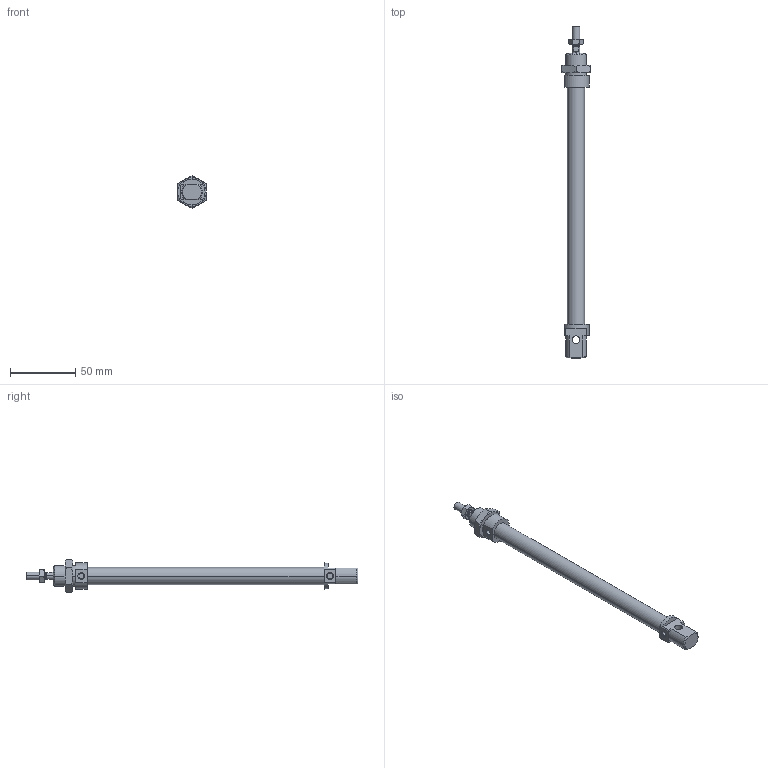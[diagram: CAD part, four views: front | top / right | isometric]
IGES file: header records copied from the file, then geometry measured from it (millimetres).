
Global section: file name: No Iges File Name specified; native system: AutoDesk Inventor R6.0; preprocessor: AutoDesk Inventor Iges Exporter R6.0; author: No Author specified; organization: No Organization specified; date: 20030407.191041; units: millimetre
Bounding box: 22 x 255 x 25.4 mm (x, y, z)
Volume: 37958.5 mm3; surface area: 20080.5 mm2
Topology: 4 solids, 4 shells, 121 faces, 268 edges, 162 vertices
Faces by surface type: plane 39, cone 38, bspline 20, cylinder 18, revolution 6
